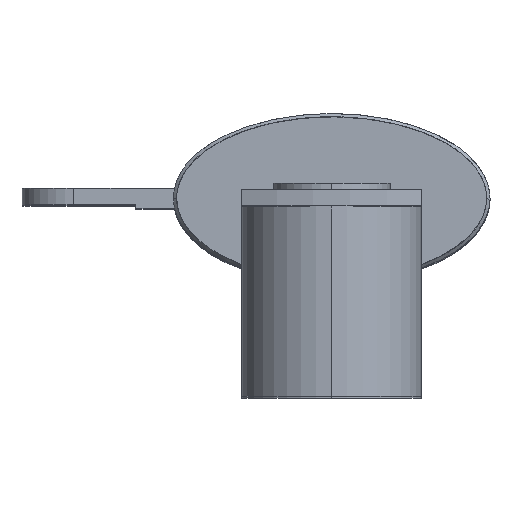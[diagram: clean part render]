
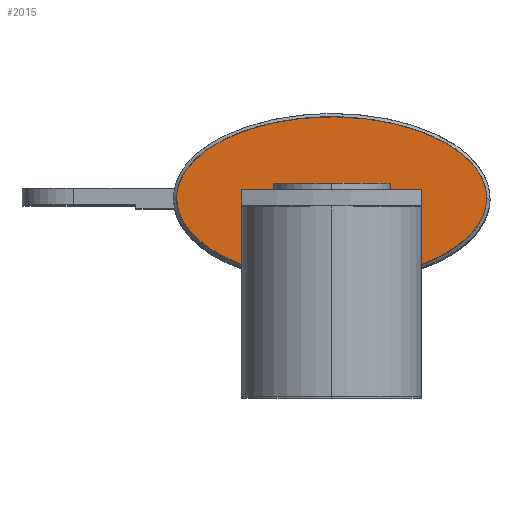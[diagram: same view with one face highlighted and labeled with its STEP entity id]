
A CAD part, top view. The second image highlights one B-rep face of the part: STEP entity #2015.
In plain terms, the highlighted planar face has unit normal (0, 0, 1).
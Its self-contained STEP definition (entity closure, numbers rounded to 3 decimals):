
#86 = LINE ( 'NONE', #3979, #89 ) ;
#89 = VECTOR ( 'NONE', #3978, 1000. ) ;
#234 = EDGE_CURVE ( 'NONE', #399, #2705, #3561, .T. ) ;
#245 = EDGE_CURVE ( 'NONE', #425, #2708, #86, .T. ) ;
#399 = VERTEX_POINT ( 'NONE', #1796 ) ;
#425 = VERTEX_POINT ( 'NONE', #1809 ) ;
#451 = CARTESIAN_POINT ( 'NONE',  ( 4.76, -5., 12.7 ) ) ;
#452 = CARTESIAN_POINT ( 'NONE',  ( 4.76, 0., 12.7 ) ) ;
#453 = CARTESIAN_POINT ( 'NONE',  ( -2.77, 0.25, 12.7 ) ) ;
#454 = DIRECTION ( 'NONE',  ( 0., -1., 0. ) ) ;
#455 = CARTESIAN_POINT ( 'NONE',  ( 2.77, 0.25, 12.7 ) ) ;
#456 = DIRECTION ( 'NONE',  ( 0., -1., 0. ) ) ;
#933 = LINE ( 'NONE', #1836, #938 ) ;
#938 = VECTOR ( 'NONE', #1841, 1000. ) ;
#950 = LINE ( 'NONE', #453, #952 ) ;
#951 = LINE ( 'NONE', #455, #954 ) ;
#952 = VECTOR ( 'NONE', #454, 1000. ) ;
#954 = VECTOR ( 'NONE', #456, 1000. ) ;
#1014 = EDGE_CURVE ( 'NONE', #2712, #2704, #933, .T. ) ;
#1023 = EDGE_CURVE ( 'NONE', #2705, #399, #3566, .T. ) ;
#1024 = EDGE_CURVE ( 'NONE', #2708, #2704, #950, .T. ) ;
#1025 = EDGE_CURVE ( 'NONE', #425, #2712, #951, .T. ) ;
#1545 = AXIS2_PLACEMENT_3D ( 'NONE', #5148, #5149, #5150 ) ;
#1796 = CARTESIAN_POINT ( 'NONE',  ( 4.76, 0., 12.7 ) ) ;
#1809 = CARTESIAN_POINT ( 'NONE',  ( 2.77, 0.25, 12.7 ) ) ;
#1836 = CARTESIAN_POINT ( 'NONE',  ( -2.77, -0.25, 12.7 ) ) ;
#1841 = DIRECTION ( 'NONE',  ( -1., 0., 0. ) ) ;
#1850 = CARTESIAN_POINT ( 'NONE',  ( -4.76, -5., 12.7 ) ) ;
#1852 = CARTESIAN_POINT ( 'NONE',  ( -4.76, 0., 12.7 ) ) ;
#2015 = ADVANCED_FACE ( 'NONE', ( #7665, #7660 ), #5141, .T. ) ;
#2704 = VERTEX_POINT ( 'NONE', #4017 ) ;
#2705 = VERTEX_POINT ( 'NONE', #4018 ) ;
#2708 = VERTEX_POINT ( 'NONE', #4021 ) ;
#2712 = VERTEX_POINT ( 'NONE', #4016 ) ;
#2783 = ORIENTED_EDGE ( 'NONE', *, *, #1023, .T. ) ;
#2784 = ORIENTED_EDGE ( 'NONE', *, *, #234, .T. ) ;
#2785 = ORIENTED_EDGE ( 'NONE', *, *, #1014, .T. ) ;
#2786 = ORIENTED_EDGE ( 'NONE', *, *, #1024, .F. ) ;
#2787 = ORIENTED_EDGE ( 'NONE', *, *, #245, .F. ) ;
#2788 = ORIENTED_EDGE ( 'NONE', *, *, #1025, .T. ) ;
#2849 = CARTESIAN_POINT ( 'NONE',  ( 4.76, 5., 12.7 ) ) ;
#2850 = CARTESIAN_POINT ( 'NONE',  ( -4.76, 5., 12.7 ) ) ;
#2851 = CARTESIAN_POINT ( 'NONE',  ( 4.76, 0., 12.7 ) ) ;
#2852 = CARTESIAN_POINT ( 'NONE',  ( -4.76, 0., 12.7 ) ) ;
#3561 =( BOUNDED_CURVE ( )  B_SPLINE_CURVE ( 3, ( #2851, #2849, #2850, #2852 ),
 .UNSPECIFIED., .F., .F. ) 
 B_SPLINE_CURVE_WITH_KNOTS ( ( 4, 4 ),
 ( 3.142, 6.283 ),
 .UNSPECIFIED. ) 
 CURVE ( )  GEOMETRIC_REPRESENTATION_ITEM ( )  RATIONAL_B_SPLINE_CURVE ( ( 1., 0.333, 0.333, 1. ) ) 
 REPRESENTATION_ITEM ( '' )  );
#3566 =( BOUNDED_CURVE ( )  B_SPLINE_CURVE ( 3, ( #1852, #1850, #451, #452 ),
 .UNSPECIFIED., .F., .T. ) 
 B_SPLINE_CURVE_WITH_KNOTS ( ( 4, 4 ),
 ( 0., 3.142 ),
 .UNSPECIFIED. ) 
 CURVE ( )  GEOMETRIC_REPRESENTATION_ITEM ( )  RATIONAL_B_SPLINE_CURVE ( ( 1., 0.333, 0.333, 1. ) ) 
 REPRESENTATION_ITEM ( '' )  );
#3978 = DIRECTION ( 'NONE',  ( -1., 0., 0. ) ) ;
#3979 = CARTESIAN_POINT ( 'NONE',  ( -2.77, 0.25, 12.7 ) ) ;
#4016 = CARTESIAN_POINT ( 'NONE',  ( 2.77, -0.25, 12.7 ) ) ;
#4017 = CARTESIAN_POINT ( 'NONE',  ( -2.77, -0.25, 12.7 ) ) ;
#4018 = CARTESIAN_POINT ( 'NONE',  ( -4.76, 0., 12.7 ) ) ;
#4021 = CARTESIAN_POINT ( 'NONE',  ( -2.77, 0.25, 12.7 ) ) ;
#5141 = PLANE ( 'NONE',  #1545 ) ;
#5148 = CARTESIAN_POINT ( 'NONE',  ( 0., 0., 12.7 ) ) ;
#5149 = DIRECTION ( 'NONE',  ( 0., 0., 1. ) ) ;
#5150 = DIRECTION ( 'NONE',  ( 1., 0., 0. ) ) ;
#7262 = EDGE_LOOP ( 'NONE', ( #2785, #2786, #2787, #2788 ) ) ;
#7263 = EDGE_LOOP ( 'NONE', ( #2783, #2784 ) ) ;
#7660 = FACE_BOUND ( 'NONE', #7262, .T. ) ;
#7665 = FACE_OUTER_BOUND ( 'NONE', #7263, .T. ) ;
